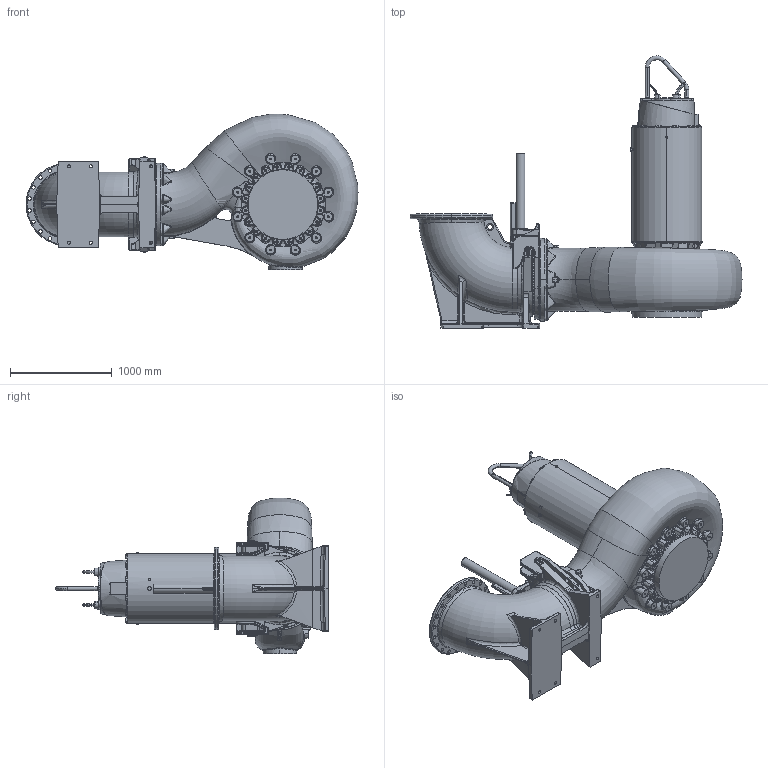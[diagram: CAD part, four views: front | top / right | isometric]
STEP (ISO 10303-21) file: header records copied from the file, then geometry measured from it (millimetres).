
FILE_DESCRIPTION (( 'STEP AP214' ), '1' );
FILE_NAME ('PE6_XFP600V-CH3_WET_B_NG2.STEP', '2017-03-29T09:21:15', ( '' ), ( '' ), 'SwSTEP 2.0', 'SolidWorks 2017', '' );
FILE_SCHEMA (( 'AUTOMOTIVE_DESIGN' ));
Length unit declared in the file: millimetre
Products named in the file (1): PE6_XFP600V-CH3_WET_B_NG2
Bounding box: 3264.34 x 2677.31 x 1532.39 mm (x, y, z)
Volume: 2130230743.6 mm3; surface area: 20323324.4 mm2
Topology: 4 solids, 23 shells, 3933 faces, 9757 edges, 5588 vertices
Faces by surface type: bspline 1169, cylinder 1119, plane 716, cone 410, torus 341, sphere 178
Entity records: 282961 total; most frequent: CARTESIAN_POINT 157342, ORIENTED_EDGE 18754, DIRECTION 15479, EDGE_CURVE 9377, AXIS2_PLACEMENT_3D 6421, VERTEX_POINT 5588, EDGE_LOOP 4159, UNCERTAINTY_MEASURE_WITH_UNIT 3939
